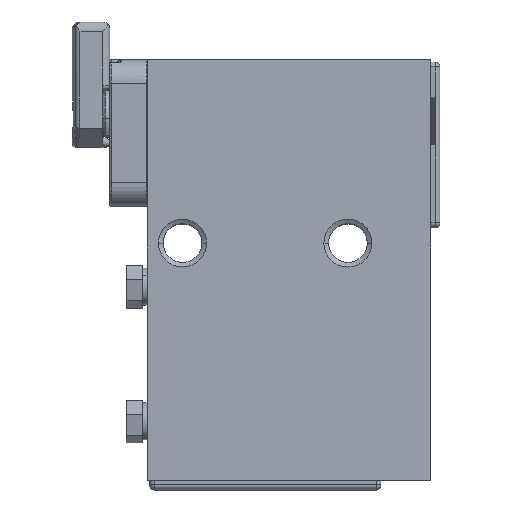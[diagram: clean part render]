
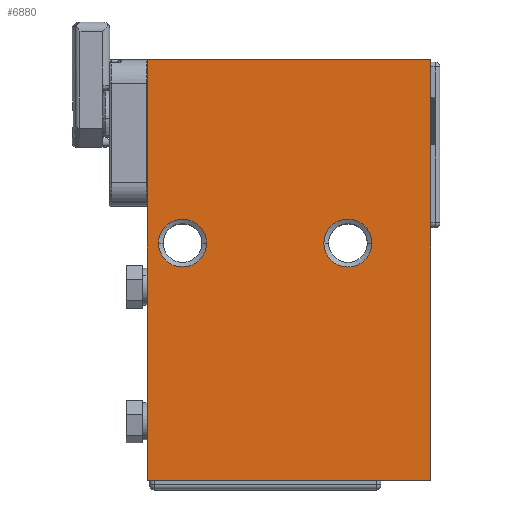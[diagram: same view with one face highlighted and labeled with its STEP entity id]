
A CAD part, top view. The second image highlights one B-rep face of the part: STEP entity #6880.
In plain terms, the highlighted planar face has unit normal (0, 0, 1).
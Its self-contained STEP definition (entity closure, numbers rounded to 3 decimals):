
#5 = VERTEX_POINT ( 'NONE', #15381 ) ;
#18 = ORIENTED_EDGE ( 'NONE', *, *, #9346, .F. ) ;
#200 = VERTEX_POINT ( 'NONE', #2489 ) ;
#291 = DIRECTION ( 'NONE',  ( 0., 1., 0. ) ) ;
#353 = AXIS2_PLACEMENT_3D ( 'NONE', #7270, #554, #2126 ) ;
#472 = CARTESIAN_POINT ( 'NONE',  ( 27.658, -27.533, 20. ) ) ;
#554 = DIRECTION ( 'NONE',  ( 0., 0., 1. ) ) ;
#813 = AXIS2_PLACEMENT_3D ( 'NONE', #7525, #7440, #12762 ) ;
#911 = EDGE_LOOP ( 'NONE', ( #18, #1593 ) ) ;
#961 = DIRECTION ( 'NONE',  ( 0., 0., 1. ) ) ;
#1213 = VECTOR ( 'NONE', #6410, 1000. ) ;
#1566 = CARTESIAN_POINT ( 'NONE',  ( -29.917, 22.667, 20. ) ) ;
#1591 = DIRECTION ( 'NONE',  ( 1., 0., 0. ) ) ;
#1593 = ORIENTED_EDGE ( 'NONE', *, *, #5841, .F. ) ;
#2126 = DIRECTION ( 'NONE',  ( 1., 0., 0. ) ) ;
#2489 = CARTESIAN_POINT ( 'NONE',  ( 27.658, -27.533, 20. ) ) ;
#2492 = LINE ( 'NONE', #7809, #1213 ) ;
#2762 = EDGE_CURVE ( 'NONE', #5907, #200, #6332, .T. ) ;
#2978 = EDGE_CURVE ( 'NONE', #5, #5907, #2492, .T. ) ;
#3122 = CARTESIAN_POINT ( 'NONE',  ( 15.233, 22.667, 20. ) ) ;
#3507 = FACE_BOUND ( 'NONE', #11115, .T. ) ;
#3647 = LINE ( 'NONE', #13160, #12781 ) ;
#3742 = ORIENTED_EDGE ( 'NONE', *, *, #5794, .T. ) ;
#4163 = AXIS2_PLACEMENT_3D ( 'NONE', #4202, #13452, #1591 ) ;
#4202 = CARTESIAN_POINT ( 'NONE',  ( -24.842, 22.667, 20. ) ) ;
#4643 = DIRECTION ( 'NONE',  ( 0., -1., 0. ) ) ;
#4898 = ORIENTED_EDGE ( 'NONE', *, *, #9134, .F. ) ;
#5374 = CIRCLE ( 'NONE', #353, 5.075 ) ;
#5794 = EDGE_CURVE ( 'NONE', #15378, #5, #3647, .T. ) ;
#5841 = EDGE_CURVE ( 'NONE', #14633, #6020, #6343, .T. ) ;
#5907 = VERTEX_POINT ( 'NONE', #7936 ) ;
#6020 = VERTEX_POINT ( 'NONE', #3122 ) ;
#6237 = AXIS2_PLACEMENT_3D ( 'NONE', #16571, #12844, #4643 ) ;
#6332 = LINE ( 'NONE', #11653, #13947 ) ;
#6343 = CIRCLE ( 'NONE', #9666, 5.075 ) ;
#6410 = DIRECTION ( 'NONE',  ( 0., -1., 0. ) ) ;
#6880 = ADVANCED_FACE ( 'NONE', ( #11443, #3507, #14216 ), #11262, .F. ) ;
#7270 = CARTESIAN_POINT ( 'NONE',  ( -24.842, 22.667, 20. ) ) ;
#7440 = DIRECTION ( 'NONE',  ( 0., 0., 1. ) ) ;
#7525 = CARTESIAN_POINT ( 'NONE',  ( 10.158, 22.667, 20. ) ) ;
#7809 = CARTESIAN_POINT ( 'NONE',  ( -32.342, -27.533, 20. ) ) ;
#7936 = CARTESIAN_POINT ( 'NONE',  ( -32.342, -27.533, 20. ) ) ;
#8259 = VERTEX_POINT ( 'NONE', #1566 ) ;
#8786 = DIRECTION ( 'NONE',  ( 1., 0., 0. ) ) ;
#9134 = EDGE_CURVE ( 'NONE', #16308, #8259, #13088, .T. ) ;
#9346 = EDGE_CURVE ( 'NONE', #6020, #14633, #12228, .T. ) ;
#9488 = ORIENTED_EDGE ( 'NONE', *, *, #11205, .T. ) ;
#9666 = AXIS2_PLACEMENT_3D ( 'NONE', #10193, #961, #15669 ) ;
#9797 = LINE ( 'NONE', #472, #10369 ) ;
#10193 = CARTESIAN_POINT ( 'NONE',  ( 10.158, 22.667, 20. ) ) ;
#10369 = VECTOR ( 'NONE', #291, 1000. ) ;
#11115 = EDGE_LOOP ( 'NONE', ( #4898, #13880 ) ) ;
#11205 = EDGE_CURVE ( 'NONE', #200, #15378, #9797, .T. ) ;
#11262 = PLANE ( 'NONE',  #6237 ) ;
#11281 = EDGE_LOOP ( 'NONE', ( #15436, #13517, #9488, #3742 ) ) ;
#11394 = EDGE_CURVE ( 'NONE', #8259, #16308, #5374, .T. ) ;
#11443 = FACE_OUTER_BOUND ( 'NONE', #11281, .T. ) ;
#11653 = CARTESIAN_POINT ( 'NONE',  ( -32.342, -27.533, 20. ) ) ;
#12227 = CARTESIAN_POINT ( 'NONE',  ( 27.658, 61.467, 20. ) ) ;
#12228 = CIRCLE ( 'NONE', #813, 5.075 ) ;
#12762 = DIRECTION ( 'NONE',  ( 1., 0., 0. ) ) ;
#12781 = VECTOR ( 'NONE', #12819, 1000. ) ;
#12819 = DIRECTION ( 'NONE',  ( -1., 0., 0. ) ) ;
#12844 = DIRECTION ( 'NONE',  ( 0., 0., -1. ) ) ;
#13088 = CIRCLE ( 'NONE', #4163, 5.075 ) ;
#13160 = CARTESIAN_POINT ( 'NONE',  ( -32.342, 61.467, 20. ) ) ;
#13452 = DIRECTION ( 'NONE',  ( 0., 0., 1. ) ) ;
#13517 = ORIENTED_EDGE ( 'NONE', *, *, #2762, .T. ) ;
#13535 = CARTESIAN_POINT ( 'NONE',  ( 5.083, 22.667, 20. ) ) ;
#13880 = ORIENTED_EDGE ( 'NONE', *, *, #11394, .F. ) ;
#13947 = VECTOR ( 'NONE', #8786, 1000. ) ;
#14216 = FACE_BOUND ( 'NONE', #911, .T. ) ;
#14633 = VERTEX_POINT ( 'NONE', #13535 ) ;
#15378 = VERTEX_POINT ( 'NONE', #12227 ) ;
#15381 = CARTESIAN_POINT ( 'NONE',  ( -32.342, 61.467, 20. ) ) ;
#15436 = ORIENTED_EDGE ( 'NONE', *, *, #2978, .T. ) ;
#15669 = DIRECTION ( 'NONE',  ( 1., 0., 0. ) ) ;
#16308 = VERTEX_POINT ( 'NONE', #16852 ) ;
#16571 = CARTESIAN_POINT ( 'NONE',  ( -32.342, 61.467, 20. ) ) ;
#16852 = CARTESIAN_POINT ( 'NONE',  ( -19.767, 22.667, 20. ) ) ;
